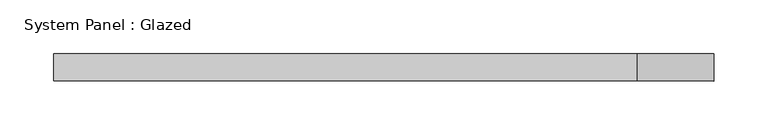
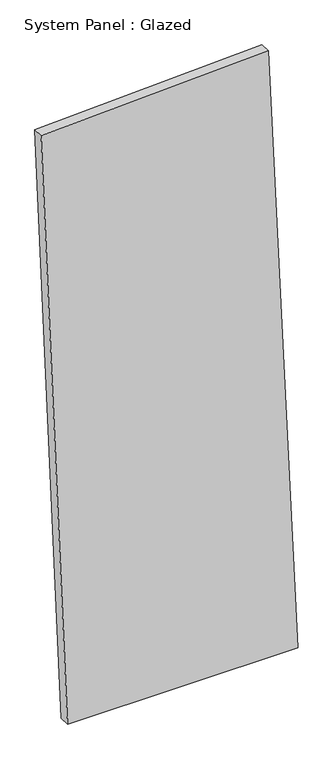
"""IFC4 building model written with IfcOpenShell, lengths in millimetres: plate geometry, System Panel : Glazed."""

from ifc_helpers import new_model, si_unit, frame, origin, place, context, project, spatial, polyline, outline, extrude, source, transform, mapped, element, save


def system_panel_glazed_6544bf7d(model_context):
    return source(origin(), model_context, "Body", "SweptSolid", [
        extrude(outline(polyline([(0.0, -244.3089037), (0.0, 307.5913404), (1533.6716112, 236.3228398), (1509.6232363, -307.5913404), (0.0, -244.3089037)])), frame((0.0, -44.45, 0.0), z_axis=(0.0, 1.0, 0.0), x_axis=(0.0, 0.0, 1.0)), (0.0, 0.0, 1.0), 25.4),
    ])


if __name__ == "__main__":
    model = new_model("IFC4")
    model_context = context("Model", 3, world=origin())
    ifc_project = project(units=[si_unit("LENGTHUNIT", "METRE", prefix="MILLI")], contexts=[model_context])
    site = spatial("IfcSite", under=ifc_project)
    building = spatial("IfcBuilding", under=site)
    placement = place(None, origin())
    system_panel_glazed_shape = system_panel_glazed_6544bf7d(model_context)
    element("IfcPlate", 1, ObjectType="System Panel : Glazed", at=placement, inside=building, context=model_context, shape_type="MappedRepresentation", body=[
        mapped(system_panel_glazed_shape, transform((0.0, 0.0, 0.0), x_axis=(1.0, 0.0, 0.0), y_axis=(0.0, 1.0, 0.0), z_axis=(0.0, 0.0, 1.0))),
    ])
    save(model, "model.ifc")
